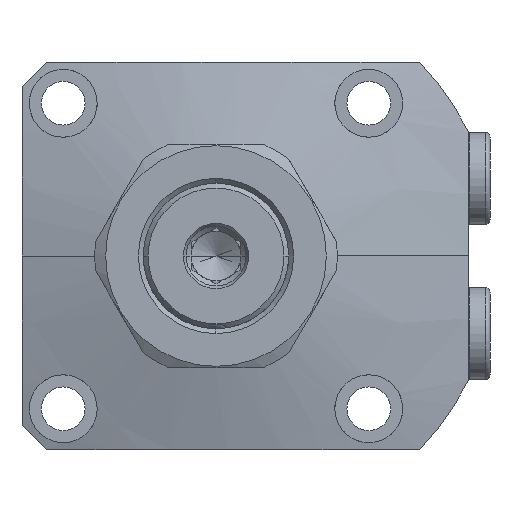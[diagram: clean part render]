
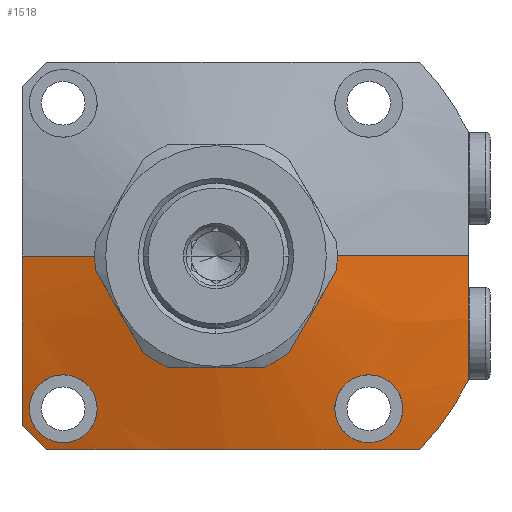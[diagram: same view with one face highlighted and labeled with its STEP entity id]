
A CAD part, left-side view. The second image highlights one B-rep face of the part: STEP entity #1518.
In plain terms, the highlighted conical face has half-angle 75 degrees and reference radius 22.5 mm.
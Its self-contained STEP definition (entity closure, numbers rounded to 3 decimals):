
#1039=FACE_BOUND('',#2144,.T.);
#1040=FACE_BOUND('',#2145,.T.);
#1041=FACE_BOUND('',#2146,.T.);
#1175=B_SPLINE_CURVE_WITH_KNOTS('',3,(#8835,#8836,#8837,#8838,#8839,#8840,
#8841,#8842,#8843,#8844),.UNSPECIFIED.,.F.,.F.,(4,2,2,2,4),(0.,0.25,0.5,
0.75,1.),.UNSPECIFIED.);
#1176=B_SPLINE_CURVE_WITH_KNOTS('',3,(#8853,#8854,#8855,#8856,#8857,#8858,
#8859,#8860,#8861,#8862),.UNSPECIFIED.,.F.,.F.,(4,2,2,2,4),(0.,0.25,0.5,
0.75,1.),.UNSPECIFIED.);
#1187=B_SPLINE_CURVE_WITH_KNOTS('',3,(#9257,#9258,#9259,#9260),
 .UNSPECIFIED.,.F.,.F.,(4,4),(0.,1.),.UNSPECIFIED.);
#1188=B_SPLINE_CURVE_WITH_KNOTS('',3,(#9262,#9263,#9264,#9265),
 .UNSPECIFIED.,.F.,.F.,(4,4),(0.,1.),.UNSPECIFIED.);
#1189=B_SPLINE_CURVE_WITH_KNOTS('',3,(#9267,#9268,#9269,#9270,#9271,#9272),
 .UNSPECIFIED.,.F.,.F.,(4,2,4),(0.,0.5,1.),.UNSPECIFIED.);
#1190=B_SPLINE_CURVE_WITH_KNOTS('',3,(#9273,#9274,#9275,#9276),
 .UNSPECIFIED.,.F.,.F.,(4,4),(0.,1.),.UNSPECIFIED.);
#1191=B_SPLINE_CURVE_WITH_KNOTS('',3,(#9277,#9278,#9279,#9280,#9281,#9282,
#9283,#9284,#9285,#9286),.UNSPECIFIED.,.F.,.F.,(4,2,2,2,4),(0.,0.25,0.5,
0.75,1.),.UNSPECIFIED.);
#1192=B_SPLINE_CURVE_WITH_KNOTS('',3,(#9287,#9288,#9289,#9290,#9291,#9292,
#9293,#9294,#9295,#9296),.UNSPECIFIED.,.F.,.F.,(4,2,2,2,4),(0.,0.25,0.5,
0.75,1.),.UNSPECIFIED.);
#1518=ADVANCED_FACE('',(#1039,#1040,#1041),#1618,.T.);
#1618=CONICAL_SURFACE('',#5894,22.5,75.);
#2144=EDGE_LOOP('',(#3754,#3755,#3756,#3757,#3758,#3759,#3760,#3761));
#2145=EDGE_LOOP('',(#3762,#3763));
#2146=EDGE_LOOP('',(#3764,#3765));
#2386=LINE('',#8914,#2617);
#2387=LINE('',#8940,#2618);
#2617=VECTOR('',#6967,1.);
#2618=VECTOR('',#6970,1.);
#3754=ORIENTED_EDGE('',*,*,#4836,.F.);
#3755=ORIENTED_EDGE('',*,*,#4969,.F.);
#3756=ORIENTED_EDGE('',*,*,#4842,.T.);
#3757=ORIENTED_EDGE('',*,*,#4970,.T.);
#3758=ORIENTED_EDGE('',*,*,#4971,.T.);
#3759=ORIENTED_EDGE('',*,*,#4972,.T.);
#3760=ORIENTED_EDGE('',*,*,#4936,.T.);
#3761=ORIENTED_EDGE('',*,*,#4973,.T.);
#3762=ORIENTED_EDGE('',*,*,#4974,.F.);
#3763=ORIENTED_EDGE('',*,*,#4815,.F.);
#3764=ORIENTED_EDGE('',*,*,#4975,.F.);
#3765=ORIENTED_EDGE('',*,*,#4819,.F.);
#4261=VERTEX_POINT('',#8834);
#4262=VERTEX_POINT('',#8845);
#4265=VERTEX_POINT('',#8852);
#4266=VERTEX_POINT('',#8863);
#4277=VERTEX_POINT('',#8912);
#4278=VERTEX_POINT('',#8913);
#4279=VERTEX_POINT('',#8915);
#4284=VERTEX_POINT('',#8939);
#4351=VERTEX_POINT('',#9169);
#4354=VERTEX_POINT('',#9174);
#4361=VERTEX_POINT('',#9261);
#4362=VERTEX_POINT('',#9266);
#4815=EDGE_CURVE('',#4261,#4262,#1175,.T.);
#4819=EDGE_CURVE('',#4265,#4266,#1176,.T.);
#4836=EDGE_CURVE('',#4277,#4279,#2386,.T.);
#4842=EDGE_CURVE('',#4278,#4284,#2387,.T.);
#4936=EDGE_CURVE('',#4351,#4354,#5298,.T.);
#4969=EDGE_CURVE('',#4278,#4277,#5322,.T.);
#4970=EDGE_CURVE('',#4284,#4361,#1187,.T.);
#4971=EDGE_CURVE('',#4361,#4362,#1188,.T.);
#4972=EDGE_CURVE('',#4362,#4351,#1189,.T.);
#4973=EDGE_CURVE('',#4354,#4279,#1190,.T.);
#4974=EDGE_CURVE('',#4262,#4261,#1191,.T.);
#4975=EDGE_CURVE('',#4266,#4265,#1192,.T.);
#5298=CIRCLE('',#5842,58.);
#5322=CIRCLE('',#5893,22.5);
#5842=AXIS2_PLACEMENT_3D('',#9175,#7172,#7173);
#5893=AXIS2_PLACEMENT_3D('',#9256,#7282,#7283);
#5894=AXIS2_PLACEMENT_3D('',#9297,#7284,#7285);
#6967=DIRECTION('',(0.259,-0.966,0.));
#6970=DIRECTION('',(0.259,0.966,0.));
#7172=DIRECTION('',(-1.,0.,0.));
#7173=DIRECTION('',(0.,-1.,0.));
#7282=DIRECTION('',(-1.,0.,0.));
#7283=DIRECTION('',(0.,-1.,0.));
#7284=DIRECTION('',(1.,0.,0.));
#7285=DIRECTION('',(0.,-1.,0.));
#8834=CARTESIAN_POINT('',(-33.336,-24.5,-31.5));
#8835=CARTESIAN_POINT('',(-33.336,-24.5,-31.5));
#8836=CARTESIAN_POINT('',(-32.947,-24.5,-33.34));
#8837=CARTESIAN_POINT('',(-32.443,-25.238,-35.108));
#8838=CARTESIAN_POINT('',(-31.49,-27.753,-37.68));
#8839=CARTESIAN_POINT('',(-31.039,-29.541,-38.464));
#8840=CARTESIAN_POINT('',(-30.407,-33.192,-38.533));
#8841=CARTESIAN_POINT('',(-30.221,-35.065,-37.807));
#8842=CARTESIAN_POINT('',(-30.212,-37.73,-35.197));
#8843=CARTESIAN_POINT('',(-30.385,-38.5,-33.355));
#8844=CARTESIAN_POINT('',(-30.7,-38.5,-31.5));
#8845=CARTESIAN_POINT('',(-30.7,-38.5,-31.5));
#8852=CARTESIAN_POINT('',(-30.7,38.5,-31.5));
#8853=CARTESIAN_POINT('',(-30.7,38.5,-31.5));
#8854=CARTESIAN_POINT('',(-30.385,38.5,-33.354));
#8855=CARTESIAN_POINT('',(-30.213,37.728,-35.195));
#8856=CARTESIAN_POINT('',(-30.221,35.08,-37.795));
#8857=CARTESIAN_POINT('',(-30.403,33.213,-38.532));
#8858=CARTESIAN_POINT('',(-31.039,29.539,-38.466));
#8859=CARTESIAN_POINT('',(-31.488,27.758,-37.685));
#8860=CARTESIAN_POINT('',(-32.445,25.233,-35.104));
#8861=CARTESIAN_POINT('',(-32.947,24.5,-33.339));
#8862=CARTESIAN_POINT('',(-33.336,24.5,-31.5));
#8863=CARTESIAN_POINT('',(-33.336,24.5,-31.5));
#8912=CARTESIAN_POINT('',(-38.,-22.5,0.));
#8913=CARTESIAN_POINT('',(-38.,22.5,0.));
#8914=CARTESIAN_POINT('',(-38.,-22.5,0.));
#8915=CARTESIAN_POINT('',(-30.095,-52.,0.));
#8939=CARTESIAN_POINT('',(-33.311,40.,0.));
#8940=CARTESIAN_POINT('',(-38.,22.5,0.));
#9169=CARTESIAN_POINT('',(-28.488,-42.,-40.));
#9174=CARTESIAN_POINT('',(-28.488,-52.,-25.69));
#9175=CARTESIAN_POINT('',(-28.488,0.,0.));
#9256=CARTESIAN_POINT('',(-38.,0.,0.));
#9257=CARTESIAN_POINT('',(-33.311,40.,0.));
#9258=CARTESIAN_POINT('',(-33.311,40.,-11.785));
#9259=CARTESIAN_POINT('',(-31.83,40.,-23.421));
#9260=CARTESIAN_POINT('',(-29.787,40.,-35.));
#9261=CARTESIAN_POINT('',(-29.787,40.,-35.));
#9262=CARTESIAN_POINT('',(-29.787,40.,-35.));
#9263=CARTESIAN_POINT('',(-29.829,38.334,-36.666));
#9264=CARTESIAN_POINT('',(-29.829,36.666,-38.334));
#9265=CARTESIAN_POINT('',(-29.787,35.,-40.));
#9266=CARTESIAN_POINT('',(-29.787,35.,-40.));
#9267=CARTESIAN_POINT('',(-29.787,35.,-40.));
#9268=CARTESIAN_POINT('',(-32.039,22.239,-40.));
#9269=CARTESIAN_POINT('',(-33.566,9.448,-40.));
#9270=CARTESIAN_POINT('',(-32.978,-16.291,-40.));
#9271=CARTESIAN_POINT('',(-30.965,-29.233,-40.));
#9272=CARTESIAN_POINT('',(-28.488,-42.,-40.));
#9273=CARTESIAN_POINT('',(-28.488,-52.,-25.69));
#9274=CARTESIAN_POINT('',(-29.501,-52.,-17.157));
#9275=CARTESIAN_POINT('',(-30.095,-52.,-8.597));
#9276=CARTESIAN_POINT('',(-30.095,-52.,0.));
#9277=CARTESIAN_POINT('',(-30.7,-38.5,-31.5));
#9278=CARTESIAN_POINT('',(-31.015,-38.5,-29.642));
#9279=CARTESIAN_POINT('',(-31.46,-37.742,-27.857));
#9280=CARTESIAN_POINT('',(-32.412,-35.21,-25.297));
#9281=CARTESIAN_POINT('',(-32.923,-33.428,-24.53));
#9282=CARTESIAN_POINT('',(-33.701,-29.8,-24.471));
#9283=CARTESIAN_POINT('',(-33.962,-27.932,-25.194));
#9284=CARTESIAN_POINT('',(-33.974,-25.263,-27.813));
#9285=CARTESIAN_POINT('',(-33.726,-24.5,-29.656));
#9286=CARTESIAN_POINT('',(-33.336,-24.5,-31.5));
#9287=CARTESIAN_POINT('',(-33.336,24.5,-31.5));
#9288=CARTESIAN_POINT('',(-33.726,24.5,-29.657));
#9289=CARTESIAN_POINT('',(-33.973,25.265,-27.816));
#9290=CARTESIAN_POINT('',(-33.963,27.913,-25.208));
#9291=CARTESIAN_POINT('',(-33.705,29.777,-24.473));
#9292=CARTESIAN_POINT('',(-32.921,33.435,-24.529));
#9293=CARTESIAN_POINT('',(-32.414,35.206,-25.292));
#9294=CARTESIAN_POINT('',(-31.458,37.747,-27.862));
#9295=CARTESIAN_POINT('',(-31.015,38.5,-29.643));
#9296=CARTESIAN_POINT('',(-30.7,38.5,-31.5));
#9297=CARTESIAN_POINT('',(-38.,0.,0.));
